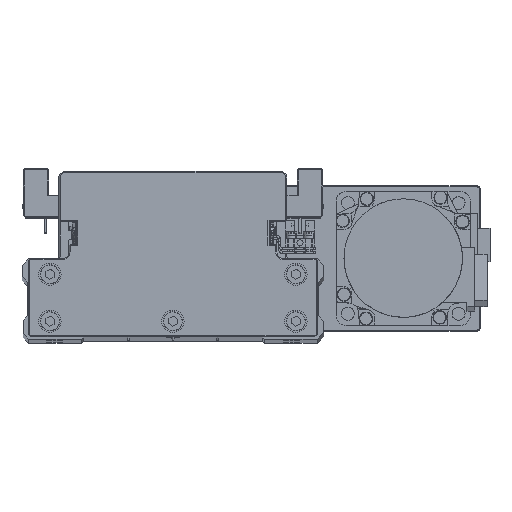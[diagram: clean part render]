
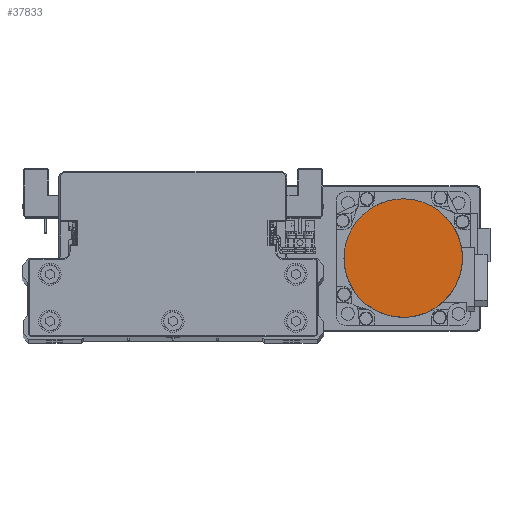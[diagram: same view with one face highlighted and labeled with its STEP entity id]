
A CAD part, top view. The second image highlights one B-rep face of the part: STEP entity #37833.
In plain terms, the highlighted planar face has unit normal (0, 0, 1) as drawn and (0, 0, -1) by its records, which use the part's own axes.
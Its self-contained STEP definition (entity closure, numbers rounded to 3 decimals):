
#227 = VERTEX_POINT ( 'NONE', #30961 ) ;
#1622 = CARTESIAN_POINT ( 'NONE',  ( 25.147, 8.539, -109.7 ) ) ;
#1824 = CARTESIAN_POINT ( 'NONE',  ( -1.734, 26.5, -109.7 ) ) ;
#1905 = CARTESIAN_POINT ( 'NONE',  ( -19.965, -17.512, -109.7 ) ) ;
#2024 = CARTESIAN_POINT ( 'NONE',  ( -25.652, 6.871, -109.7 ) ) ;
#2125 = CARTESIAN_POINT ( 'NONE',  ( 11.744, -23.819, -109.7 ) ) ;
#3436 = VERTEX_POINT ( 'NONE', #24444 ) ;
#4712 = CARTESIAN_POINT ( 'NONE',  ( 26.5, 1.734, -109.7 ) ) ;
#4917 = CARTESIAN_POINT ( 'NONE',  ( 6.871, 25.652, -109.7 ) ) ;
#5004 = CARTESIAN_POINT ( 'NONE',  ( -23.819, -11.744, -109.7 ) ) ;
#5118 = CARTESIAN_POINT ( 'NONE',  ( -22.998, 13.28, -109.7 ) ) ;
#5202 = CARTESIAN_POINT ( 'NONE',  ( 3.469, -26.329, -109.7 ) ) ;
#5412 = CARTESIAN_POINT ( 'NONE',  ( 26.329, -3.469, -109.7 ) ) ;
#5414 = DIRECTION ( 'NONE',  ( 1., 0., 0. ) ) ;
#5841 = AXIS2_PLACEMENT_3D ( 'NONE', #21142, #33806, #5414 ) ;
#8025 = CARTESIAN_POINT ( 'NONE',  ( 13.28, 22.998, -109.7 ) ) ;
#8113 = CARTESIAN_POINT ( 'NONE',  ( -26.329, -3.469, -109.7 ) ) ;
#8237 = CARTESIAN_POINT ( 'NONE',  ( -17.512, 19.965, -109.7 ) ) ;
#8321 = CARTESIAN_POINT ( 'NONE',  ( -3.469, -26.329, -109.7 ) ) ;
#8517 = CARTESIAN_POINT ( 'NONE',  ( 23.819, -11.744, -109.7 ) ) ;
#8520 = PLANE ( 'NONE',  #5841 ) ;
#9820 = EDGE_CURVE ( 'NONE', #227, #3436, #37271, .T. ) ;
#11125 = CARTESIAN_POINT ( 'NONE',  ( 19.965, 17.512, -109.7 ) ) ;
#11345 = CARTESIAN_POINT ( 'NONE',  ( -11.744, 23.819, -109.7 ) ) ;
#11434 = CARTESIAN_POINT ( 'NONE',  ( -11.744, -23.819, -109.7 ) ) ;
#11639 = CARTESIAN_POINT ( 'NONE',  ( 19.965, -17.512, -109.7 ) ) ;
#14258 = CARTESIAN_POINT ( 'NONE',  ( 23.819, 11.744, -109.7 ) ) ;
#14448 = CARTESIAN_POINT ( 'NONE',  ( -3.469, 26.329, -109.7 ) ) ;
#14544 = CARTESIAN_POINT ( 'NONE',  ( -17.512, -19.965, -109.7 ) ) ;
#14664 = CARTESIAN_POINT ( 'NONE',  ( -26.329, 3.469, -109.7 ) ) ;
#14754 = CARTESIAN_POINT ( 'NONE',  ( 13.28, -22.998, -109.7 ) ) ;
#17341 = CARTESIAN_POINT ( 'NONE',  ( 26.329, 3.469, -109.7 ) ) ;
#17383 = ORIENTED_EDGE ( 'NONE', *, *, #18987, .F. ) ;
#17554 = CARTESIAN_POINT ( 'NONE',  ( 3.469, 26.329, -109.7 ) ) ;
#17635 = CARTESIAN_POINT ( 'NONE',  ( -22.998, -13.28, -109.7 ) ) ;
#17750 = CARTESIAN_POINT ( 'NONE',  ( -23.819, 11.744, -109.7 ) ) ;
#17841 = CARTESIAN_POINT ( 'NONE',  ( 6.871, -25.652, -109.7 ) ) ;
#18044 = CARTESIAN_POINT ( 'NONE',  ( 26.5, -1.734, -109.7 ) ) ;
#18586 = B_SPLINE_CURVE_WITH_KNOTS ( 'NONE', 3,
 ( #33093, #4712, #17341, #29980, #1622, #14258, #26850, #39511, #11125, #23754, #36401, #8025, #20648, #33302, #4917, #17554, #30194, #1824, #14448, #27049, #39713, #11345, #23972, #36611, #8237, #20853, #33510, #5118, #17750, #30387, #2024, #14664, #27269, #39926 ),
 .UNSPECIFIED., .F., .F.,
 ( 4, 2, 2, 2, 2, 2, 2, 2, 2, 2, 2, 2, 2, 2, 2, 2, 4 ),
 ( 0., 0.062, 0.125, 0.187, 0.25, 0.312, 0.375, 0.437, 0.5, 0.562, 0.625, 0.687, 0.75, 0.813, 0.875, 0.938, 1. ),
 .UNSPECIFIED. ) ;
#18987 = EDGE_CURVE ( 'NONE', #3436, #227, #18586, .T. ) ;
#20648 = CARTESIAN_POINT ( 'NONE',  ( 11.744, 23.819, -109.7 ) ) ;
#20734 = CARTESIAN_POINT ( 'NONE',  ( -25.652, -6.871, -109.7 ) ) ;
#20853 = CARTESIAN_POINT ( 'NONE',  ( -19.965, 17.512, -109.7 ) ) ;
#20937 = CARTESIAN_POINT ( 'NONE',  ( -1.734, -26.5, -109.7 ) ) ;
#21140 = CARTESIAN_POINT ( 'NONE',  ( 25.147, -8.539, -109.7 ) ) ;
#21142 = CARTESIAN_POINT ( 'NONE',  ( 0., 0., -109.7 ) ) ;
#23754 = CARTESIAN_POINT ( 'NONE',  ( 17.512, 19.965, -109.7 ) ) ;
#23861 = CARTESIAN_POINT ( 'NONE',  ( -26.5, 0., -109.7 ) ) ;
#23972 = CARTESIAN_POINT ( 'NONE',  ( -13.28, 22.998, -109.7 ) ) ;
#24061 = CARTESIAN_POINT ( 'NONE',  ( -8.539, -25.147, -109.7 ) ) ;
#24259 = CARTESIAN_POINT ( 'NONE',  ( 21.07, -16.165, -109.7 ) ) ;
#24444 = CARTESIAN_POINT ( 'NONE',  ( 26.5, 0., -109.7 ) ) ;
#25545 = ORIENTED_EDGE ( 'NONE', *, *, #9820, .F. ) ;
#26850 = CARTESIAN_POINT ( 'NONE',  ( 22.998, 13.28, -109.7 ) ) ;
#27049 = CARTESIAN_POINT ( 'NONE',  ( -6.871, 25.652, -109.7 ) ) ;
#27153 = CARTESIAN_POINT ( 'NONE',  ( -16.165, -21.07, -109.7 ) ) ;
#27269 = CARTESIAN_POINT ( 'NONE',  ( -26.5, 1.734, -109.7 ) ) ;
#27362 = CARTESIAN_POINT ( 'NONE',  ( 16.165, -21.07, -109.7 ) ) ;
#29980 = CARTESIAN_POINT ( 'NONE',  ( 25.652, 6.871, -109.7 ) ) ;
#30194 = CARTESIAN_POINT ( 'NONE',  ( 1.734, 26.5, -109.7 ) ) ;
#30275 = CARTESIAN_POINT ( 'NONE',  ( -21.07, -16.165, -109.7 ) ) ;
#30387 = CARTESIAN_POINT ( 'NONE',  ( -25.147, 8.539, -109.7 ) ) ;
#30481 = CARTESIAN_POINT ( 'NONE',  ( 8.539, -25.147, -109.7 ) ) ;
#30691 = CARTESIAN_POINT ( 'NONE',  ( 26.5, 0., -109.7 ) ) ;
#30961 = CARTESIAN_POINT ( 'NONE',  ( -26.5, 0., -109.7 ) ) ;
#33093 = CARTESIAN_POINT ( 'NONE',  ( 26.5, 0., -109.7 ) ) ;
#33302 = CARTESIAN_POINT ( 'NONE',  ( 8.539, 25.147, -109.7 ) ) ;
#33395 = CARTESIAN_POINT ( 'NONE',  ( -25.147, -8.539, -109.7 ) ) ;
#33510 = CARTESIAN_POINT ( 'NONE',  ( -21.07, 16.165, -109.7 ) ) ;
#33594 = CARTESIAN_POINT ( 'NONE',  ( 1.734, -26.5, -109.7 ) ) ;
#33804 = CARTESIAN_POINT ( 'NONE',  ( 25.652, -6.871, -109.7 ) ) ;
#33806 = DIRECTION ( 'NONE',  ( 0., 0., 1. ) ) ;
#36401 = CARTESIAN_POINT ( 'NONE',  ( 16.165, 21.07, -109.7 ) ) ;
#36506 = CARTESIAN_POINT ( 'NONE',  ( -26.5, -1.734, -109.7 ) ) ;
#36611 = CARTESIAN_POINT ( 'NONE',  ( -16.165, 21.07, -109.7 ) ) ;
#36705 = CARTESIAN_POINT ( 'NONE',  ( -6.871, -25.652, -109.7 ) ) ;
#36896 = CARTESIAN_POINT ( 'NONE',  ( 22.998, -13.28, -109.7 ) ) ;
#36898 = FACE_OUTER_BOUND ( 'NONE', #40824, .T. ) ;
#37271 = B_SPLINE_CURVE_WITH_KNOTS ( 'NONE', 3,
 ( #23861, #36506, #8113, #20734, #33395, #5004, #17635, #30275, #1905, #14544, #27153, #39815, #11434, #24061, #36705, #8321, #20937, #33594, #5202, #17841, #30481, #2125, #14754, #27362, #40020, #11639, #24259, #36896, #8517, #21140, #33804, #5412, #18044, #30691 ),
 .UNSPECIFIED., .F., .F.,
 ( 4, 2, 2, 2, 2, 2, 2, 2, 2, 2, 2, 2, 2, 2, 2, 2, 4 ),
 ( 0., 0.063, 0.125, 0.188, 0.25, 0.312, 0.375, 0.437, 0.5, 0.562, 0.625, 0.687, 0.75, 0.813, 0.875, 0.938, 1. ),
 .UNSPECIFIED. ) ;
#37833 = ADVANCED_FACE ( 'NONE', ( #36898 ), #8520, .F. ) ;
#39511 = CARTESIAN_POINT ( 'NONE',  ( 21.07, 16.165, -109.7 ) ) ;
#39713 = CARTESIAN_POINT ( 'NONE',  ( -8.539, 25.147, -109.7 ) ) ;
#39815 = CARTESIAN_POINT ( 'NONE',  ( -13.28, -22.998, -109.7 ) ) ;
#39926 = CARTESIAN_POINT ( 'NONE',  ( -26.5, 0., -109.7 ) ) ;
#40020 = CARTESIAN_POINT ( 'NONE',  ( 17.512, -19.965, -109.7 ) ) ;
#40824 = EDGE_LOOP ( 'NONE', ( #17383, #25545 ) ) ;
